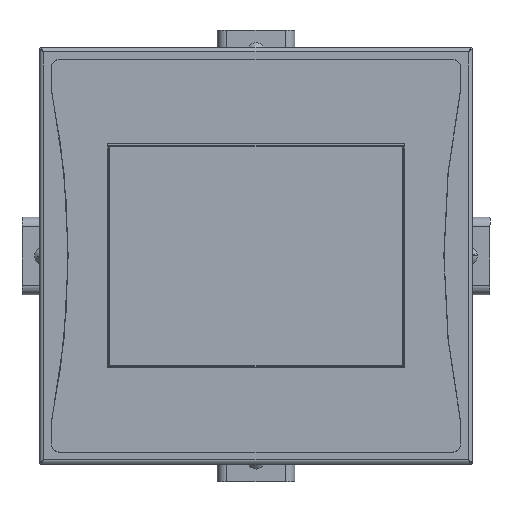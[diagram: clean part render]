
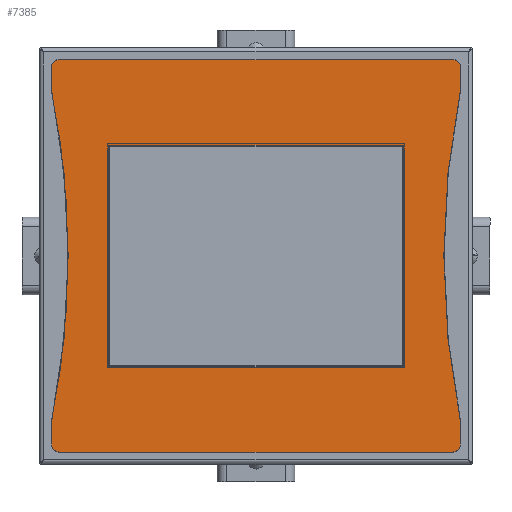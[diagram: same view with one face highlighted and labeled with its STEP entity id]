
A CAD part, top view. The second image highlights one B-rep face of the part: STEP entity #7385.
In plain terms, the highlighted planar face has unit normal (0, 0, 1).
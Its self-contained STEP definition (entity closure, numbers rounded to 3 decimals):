
#409 = AXIS2_PLACEMENT_3D ( 'NONE', #4126, #23573, #14528 ) ;
#460 = DIRECTION ( 'NONE',  ( 0., 0., 1. ) ) ;
#672 = PLANE ( 'NONE',  #25593 ) ;
#2361 = EDGE_CURVE ( 'NONE', #39027, #48841, #31924, .T. ) ;
#2386 = ORIENTED_EDGE ( 'NONE', *, *, #7309, .F. ) ;
#3466 = ORIENTED_EDGE ( 'NONE', *, *, #13343, .T. ) ;
#3657 = VECTOR ( 'NONE', #11485, 1000. ) ;
#4039 = VECTOR ( 'NONE', #49178, 1000. ) ;
#4126 = CARTESIAN_POINT ( 'NONE',  ( 44.95, 46.95, 0.2 ) ) ;
#6125 = VECTOR ( 'NONE', #21261, 1000. ) ;
#6238 = EDGE_CURVE ( 'NONE', #52683, #28682, #49934, .T. ) ;
#6493 = EDGE_CURVE ( 'NONE', #8869, #50715, #11807, .T. ) ;
#6508 = VERTEX_POINT ( 'NONE', #37653 ) ;
#6660 = CARTESIAN_POINT ( 'NONE',  ( 26.53, -35.29, 0.2 ) ) ;
#6779 = AXIS2_PLACEMENT_3D ( 'NONE', #39492, #39350, #38544 ) ;
#7266 = EDGE_CURVE ( 'NONE', #48841, #55772, #8928, .T. ) ;
#7309 = EDGE_CURVE ( 'NONE', #36678, #6508, #29334, .T. ) ;
#7385 = ADVANCED_FACE ( 'NONE', ( #38195, #25209 ), #672, .F. ) ;
#8869 = VERTEX_POINT ( 'NONE', #55911 ) ;
#8928 = LINE ( 'NONE', #31283, #55229 ) ;
#9634 = EDGE_CURVE ( 'NONE', #17985, #52683, #12699, .T. ) ;
#9848 = ORIENTED_EDGE ( 'NONE', *, *, #27222, .F. ) ;
#10409 = AXIS2_PLACEMENT_3D ( 'NONE', #14459, #14721, #13229 ) ;
#10955 = VERTEX_POINT ( 'NONE', #29014 ) ;
#11485 = DIRECTION ( 'NONE',  ( 0., -1., 0. ) ) ;
#11665 = VECTOR ( 'NONE', #33779, 1000. ) ;
#11807 = LINE ( 'NONE', #33688, #55344 ) ;
#12383 = CARTESIAN_POINT ( 'NONE',  ( -46.95, -48.95, 0.2 ) ) ;
#12479 = VECTOR ( 'NONE', #44260, 1000. ) ;
#12699 = CIRCLE ( 'NONE', #43678, 2. ) ;
#13229 = DIRECTION ( 'NONE',  ( 1., 0., 0. ) ) ;
#13343 = EDGE_CURVE ( 'NONE', #28682, #34773, #31209, .T. ) ;
#13540 = VERTEX_POINT ( 'NONE', #6660 ) ;
#13695 = LINE ( 'NONE', #12383, #22530 ) ;
#14459 = CARTESIAN_POINT ( 'NONE',  ( 0., 244.95, 0.2 ) ) ;
#14528 = DIRECTION ( 'NONE',  ( -1., 0., 0. ) ) ;
#14721 = DIRECTION ( 'NONE',  ( 0., 0., 1. ) ) ;
#14725 = DIRECTION ( 'NONE',  ( 0., 0., -1. ) ) ;
#14943 = EDGE_LOOP ( 'NONE', ( #22158, #25494, #36557, #49377, #25168, #28015, #15583, #36554, #39593, #3466, #27897, #2386 ) ) ;
#15310 = DIRECTION ( 'NONE',  ( 0., 0., 1. ) ) ;
#15583 = ORIENTED_EDGE ( 'NONE', *, *, #54420, .T. ) ;
#15908 = DIRECTION ( 'NONE',  ( -1., 0., 0. ) ) ;
#16861 = ORIENTED_EDGE ( 'NONE', *, *, #6493, .F. ) ;
#17324 = ORIENTED_EDGE ( 'NONE', *, *, #19693, .F. ) ;
#17708 = CARTESIAN_POINT ( 'NONE',  ( -44.95, 46.95, 0.2 ) ) ;
#17985 = VERTEX_POINT ( 'NONE', #32275 ) ;
#18016 = DIRECTION ( 'NONE',  ( -1., 0., 0. ) ) ;
#18074 = LINE ( 'NONE', #44719, #29614 ) ;
#18379 = CARTESIAN_POINT ( 'NONE',  ( -26.53, 35.29, 0.2 ) ) ;
#18422 = EDGE_CURVE ( 'NONE', #55772, #10955, #26385, .T. ) ;
#19114 = DIRECTION ( 'NONE',  ( -1., 0., 0. ) ) ;
#19693 = EDGE_CURVE ( 'NONE', #46500, #13540, #51650, .T. ) ;
#21261 = DIRECTION ( 'NONE',  ( 0., 1., 0. ) ) ;
#21567 = EDGE_CURVE ( 'NONE', #50715, #46500, #41301, .T. ) ;
#21892 = EDGE_CURVE ( 'NONE', #27012, #29518, #36470, .T. ) ;
#21995 = DIRECTION ( 'NONE',  ( -1., 0., 0. ) ) ;
#22158 = ORIENTED_EDGE ( 'NONE', *, *, #50182, .T. ) ;
#22521 = CARTESIAN_POINT ( 'NONE',  ( 0., -244.95, 0.2 ) ) ;
#22530 = VECTOR ( 'NONE', #29104, 1000. ) ;
#22876 = CARTESIAN_POINT ( 'NONE',  ( 26.53, 35.29, 0.2 ) ) ;
#23028 = CARTESIAN_POINT ( 'NONE',  ( 39.799, 48.95, 0.2 ) ) ;
#23573 = DIRECTION ( 'NONE',  ( 0., 0., 1. ) ) ;
#23577 = ORIENTED_EDGE ( 'NONE', *, *, #21567, .F. ) ;
#24777 = CARTESIAN_POINT ( 'NONE',  ( -26.53, -35.29, 0.2 ) ) ;
#25168 = ORIENTED_EDGE ( 'NONE', *, *, #35194, .T. ) ;
#25209 = FACE_OUTER_BOUND ( 'NONE', #14943, .T. ) ;
#25494 = ORIENTED_EDGE ( 'NONE', *, *, #2361, .T. ) ;
#25593 = AXIS2_PLACEMENT_3D ( 'NONE', #27823, #14725, #19114 ) ;
#25779 = EDGE_CURVE ( 'NONE', #34773, #6508, #13695, .T. ) ;
#26385 = CIRCLE ( 'NONE', #409, 2. ) ;
#27012 = VERTEX_POINT ( 'NONE', #34871 ) ;
#27222 = EDGE_CURVE ( 'NONE', #13540, #8869, #29203, .T. ) ;
#27823 = CARTESIAN_POINT ( 'NONE',  ( 0., 0., 0.2 ) ) ;
#27897 = ORIENTED_EDGE ( 'NONE', *, *, #25779, .T. ) ;
#28015 = ORIENTED_EDGE ( 'NONE', *, *, #21892, .F. ) ;
#28482 = CARTESIAN_POINT ( 'NONE',  ( -46.95, 46.95, 0.2 ) ) ;
#28682 = VERTEX_POINT ( 'NONE', #49486 ) ;
#29014 = CARTESIAN_POINT ( 'NONE',  ( 44.95, 48.95, 0.2 ) ) ;
#29104 = DIRECTION ( 'NONE',  ( 1., 0., 0. ) ) ;
#29203 = LINE ( 'NONE', #22876, #6125 ) ;
#29334 = CIRCLE ( 'NONE', #47116, 200. ) ;
#29518 = VERTEX_POINT ( 'NONE', #23028 ) ;
#29614 = VECTOR ( 'NONE', #31579, 1000. ) ;
#29670 = VECTOR ( 'NONE', #33525, 1000. ) ;
#30492 = CARTESIAN_POINT ( 'NONE',  ( 46.95, -46.95, 0.2 ) ) ;
#30615 = DIRECTION ( 'NONE',  ( 0., 0., 1. ) ) ;
#31209 = CIRCLE ( 'NONE', #6779, 2. ) ;
#31283 = CARTESIAN_POINT ( 'NONE',  ( 46.95, -48.95, 0.2 ) ) ;
#31321 = CARTESIAN_POINT ( 'NONE',  ( -46.95, -48.95, 0.2 ) ) ;
#31579 = DIRECTION ( 'NONE',  ( -1., 0., 0. ) ) ;
#31924 = CIRCLE ( 'NONE', #42926, 2. ) ;
#32275 = CARTESIAN_POINT ( 'NONE',  ( -44.95, 48.95, 0.2 ) ) ;
#33379 = LINE ( 'NONE', #38519, #11665 ) ;
#33525 = DIRECTION ( 'NONE',  ( 0., -1., 0. ) ) ;
#33688 = CARTESIAN_POINT ( 'NONE',  ( -26.53, 35.29, 0.2 ) ) ;
#33779 = DIRECTION ( 'NONE',  ( -1., 0., 0. ) ) ;
#34637 = CARTESIAN_POINT ( 'NONE',  ( -26.53, -35.29, 0.2 ) ) ;
#34773 = VERTEX_POINT ( 'NONE', #49388 ) ;
#34871 = CARTESIAN_POINT ( 'NONE',  ( -39.799, 48.95, 0.2 ) ) ;
#35194 = EDGE_CURVE ( 'NONE', #10955, #29518, #33379, .T. ) ;
#36470 = CIRCLE ( 'NONE', #10409, 200. ) ;
#36554 = ORIENTED_EDGE ( 'NONE', *, *, #9634, .T. ) ;
#36557 = ORIENTED_EDGE ( 'NONE', *, *, #7266, .T. ) ;
#36678 = VERTEX_POINT ( 'NONE', #41492 ) ;
#37653 = CARTESIAN_POINT ( 'NONE',  ( -39.799, -48.95, 0.2 ) ) ;
#38047 = EDGE_LOOP ( 'NONE', ( #17324, #23577, #16861, #9848 ) ) ;
#38195 = FACE_BOUND ( 'NONE', #38047, .T. ) ;
#38519 = CARTESIAN_POINT ( 'NONE',  ( -46.95, 48.95, 0.2 ) ) ;
#38544 = DIRECTION ( 'NONE',  ( -1., 0., 0. ) ) ;
#39027 = VERTEX_POINT ( 'NONE', #55715 ) ;
#39350 = DIRECTION ( 'NONE',  ( 0., 0., 1. ) ) ;
#39447 = CARTESIAN_POINT ( 'NONE',  ( -26.53, 35.29, 0.2 ) ) ;
#39492 = CARTESIAN_POINT ( 'NONE',  ( -44.95, -46.95, 0.2 ) ) ;
#39593 = ORIENTED_EDGE ( 'NONE', *, *, #6238, .T. ) ;
#39896 = CARTESIAN_POINT ( 'NONE',  ( -46.95, -48.95, 0.2 ) ) ;
#41301 = LINE ( 'NONE', #18379, #29670 ) ;
#41492 = CARTESIAN_POINT ( 'NONE',  ( 39.799, -48.95, 0.2 ) ) ;
#42926 = AXIS2_PLACEMENT_3D ( 'NONE', #47349, #30615, #18016 ) ;
#43678 = AXIS2_PLACEMENT_3D ( 'NONE', #17708, #460, #21995 ) ;
#44260 = DIRECTION ( 'NONE',  ( 1., 0., 0. ) ) ;
#44719 = CARTESIAN_POINT ( 'NONE',  ( -46.95, 48.95, 0.2 ) ) ;
#46500 = VERTEX_POINT ( 'NONE', #34637 ) ;
#47116 = AXIS2_PLACEMENT_3D ( 'NONE', #22521, #15310, #48036 ) ;
#47162 = LINE ( 'NONE', #39896, #12479 ) ;
#47349 = CARTESIAN_POINT ( 'NONE',  ( 44.95, -46.95, 0.2 ) ) ;
#48036 = DIRECTION ( 'NONE',  ( -1., 0., 0. ) ) ;
#48841 = VERTEX_POINT ( 'NONE', #30492 ) ;
#49178 = DIRECTION ( 'NONE',  ( 1., 0., 0. ) ) ;
#49377 = ORIENTED_EDGE ( 'NONE', *, *, #18422, .T. ) ;
#49388 = CARTESIAN_POINT ( 'NONE',  ( -44.95, -48.95, 0.2 ) ) ;
#49486 = CARTESIAN_POINT ( 'NONE',  ( -46.95, -46.95, 0.2 ) ) ;
#49934 = LINE ( 'NONE', #31321, #3657 ) ;
#50182 = EDGE_CURVE ( 'NONE', #36678, #39027, #47162, .T. ) ;
#50715 = VERTEX_POINT ( 'NONE', #39447 ) ;
#50847 = CARTESIAN_POINT ( 'NONE',  ( 46.95, 46.95, 0.2 ) ) ;
#51650 = LINE ( 'NONE', #24777, #4039 ) ;
#52683 = VERTEX_POINT ( 'NONE', #28482 ) ;
#52782 = DIRECTION ( 'NONE',  ( 0., 1., 0. ) ) ;
#54420 = EDGE_CURVE ( 'NONE', #27012, #17985, #18074, .T. ) ;
#55229 = VECTOR ( 'NONE', #52782, 1000. ) ;
#55344 = VECTOR ( 'NONE', #15908, 1000. ) ;
#55715 = CARTESIAN_POINT ( 'NONE',  ( 44.95, -48.95, 0.2 ) ) ;
#55772 = VERTEX_POINT ( 'NONE', #50847 ) ;
#55911 = CARTESIAN_POINT ( 'NONE',  ( 26.53, 35.29, 0.2 ) ) ;
